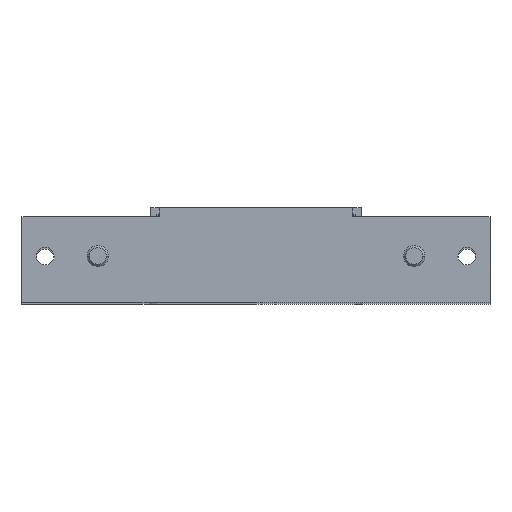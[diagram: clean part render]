
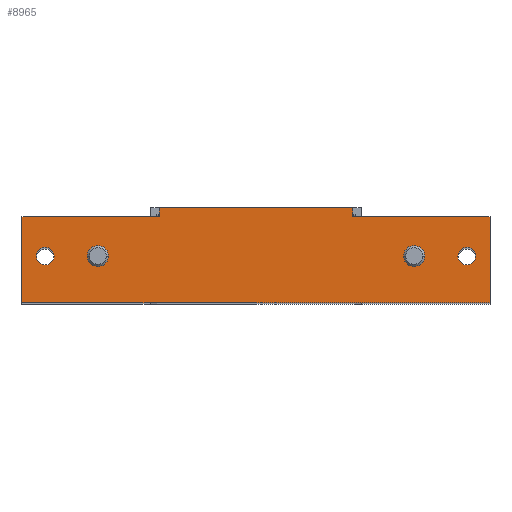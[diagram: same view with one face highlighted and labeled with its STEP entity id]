
A CAD part, top view. The second image highlights one B-rep face of the part: STEP entity #8965.
In plain terms, the highlighted planar face has unit normal (0, 0, 1).
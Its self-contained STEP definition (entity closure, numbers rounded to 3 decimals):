
#898 = VERTEX_POINT('',#899);
#899 = CARTESIAN_POINT('',(-47.9,-11.5,123.5));
#905 = EDGE_CURVE('',#906,#898,#908,.T.);
#906 = VERTEX_POINT('',#907);
#907 = CARTESIAN_POINT('',(-52.1,-11.5,123.5));
#908 = CIRCLE('',#909,2.1);
#909 = AXIS2_PLACEMENT_3D('',#910,#911,#912);
#910 = CARTESIAN_POINT('',(-50.,-11.5,123.5));
#911 = DIRECTION('',(0.,0.,1.));
#912 = DIRECTION('',(1.,0.,-0.));
#940 = VERTEX_POINT('',#941);
#941 = CARTESIAN_POINT('',(39.6,-11.5,123.5));
#947 = EDGE_CURVE('',#948,#940,#950,.T.);
#948 = VERTEX_POINT('',#949);
#949 = CARTESIAN_POINT('',(35.4,-11.5,123.5));
#950 = CIRCLE('',#951,2.1);
#951 = AXIS2_PLACEMENT_3D('',#952,#953,#954);
#952 = CARTESIAN_POINT('',(37.5,-11.5,123.5));
#953 = DIRECTION('',(0.,0.,1.));
#954 = DIRECTION('',(-1.,0.,0.));
#982 = VERTEX_POINT('',#983);
#983 = CARTESIAN_POINT('',(52.1,-11.5,123.5));
#989 = EDGE_CURVE('',#990,#982,#992,.T.);
#990 = VERTEX_POINT('',#991);
#991 = CARTESIAN_POINT('',(47.9,-11.5,123.5));
#992 = CIRCLE('',#993,2.1);
#993 = AXIS2_PLACEMENT_3D('',#994,#995,#996);
#994 = CARTESIAN_POINT('',(50.,-11.5,123.5));
#995 = DIRECTION('',(0.,0.,1.));
#996 = DIRECTION('',(-1.,0.,0.));
#1024 = VERTEX_POINT('',#1025);
#1025 = CARTESIAN_POINT('',(-35.4,-11.5,123.5));
#1031 = EDGE_CURVE('',#1032,#1024,#1034,.T.);
#1032 = VERTEX_POINT('',#1033);
#1033 = CARTESIAN_POINT('',(-39.6,-11.5,123.5));
#1034 = CIRCLE('',#1035,2.1);
#1035 = AXIS2_PLACEMENT_3D('',#1036,#1037,#1038);
#1036 = CARTESIAN_POINT('',(-37.5,-11.5,123.5));
#1037 = DIRECTION('',(0.,0.,1.));
#1038 = DIRECTION('',(1.,0.,-0.));
#3635 = VERTEX_POINT('',#3636);
#3636 = CARTESIAN_POINT('',(-22.9,0.,123.5));
#3642 = EDGE_CURVE('',#3643,#3635,#3645,.T.);
#3643 = VERTEX_POINT('',#3644);
#3644 = CARTESIAN_POINT('',(22.9,0.,123.5));
#3645 = LINE('',#3646,#3647);
#3646 = CARTESIAN_POINT('',(-25.,0.,123.5));
#3647 = VECTOR('',#3648,1.);
#3648 = DIRECTION('',(-1.,0.,0.));
#8906 = VERTEX_POINT('',#8907);
#8907 = CARTESIAN_POINT('',(22.9,-2.1,123.5));
#8922 = EDGE_CURVE('',#8906,#3643,#8923,.T.);
#8923 = LINE('',#8924,#8925);
#8924 = CARTESIAN_POINT('',(22.9,-2.1,123.5));
#8925 = VECTOR('',#8926,1.);
#8926 = DIRECTION('',(-0.,1.,0.));
#8946 = VERTEX_POINT('',#8947);
#8947 = CARTESIAN_POINT('',(-22.9,-2.1,123.5));
#8953 = EDGE_CURVE('',#8946,#3635,#8954,.T.);
#8954 = LINE('',#8955,#8956);
#8955 = CARTESIAN_POINT('',(-22.9,0.,123.5));
#8956 = VECTOR('',#8957,1.);
#8957 = DIRECTION('',(0.,1.,0.));
#8965 = ADVANCED_FACE('',(#8966,#8976,#8986,#8996,#9006),#9049,.T.);
#8966 = FACE_BOUND('',#8967,.T.);
#8967 = EDGE_LOOP('',(#8968,#8975));
#8968 = ORIENTED_EDGE('',*,*,#8969,.F.);
#8969 = EDGE_CURVE('',#898,#906,#8970,.T.);
#8970 = CIRCLE('',#8971,2.1);
#8971 = AXIS2_PLACEMENT_3D('',#8972,#8973,#8974);
#8972 = CARTESIAN_POINT('',(-50.,-11.5,123.5));
#8973 = DIRECTION('',(0.,0.,1.));
#8974 = DIRECTION('',(1.,0.,-0.));
#8975 = ORIENTED_EDGE('',*,*,#905,.F.);
#8976 = FACE_BOUND('',#8977,.T.);
#8977 = EDGE_LOOP('',(#8978,#8985));
#8978 = ORIENTED_EDGE('',*,*,#8979,.F.);
#8979 = EDGE_CURVE('',#940,#948,#8980,.T.);
#8980 = CIRCLE('',#8981,2.1);
#8981 = AXIS2_PLACEMENT_3D('',#8982,#8983,#8984);
#8982 = CARTESIAN_POINT('',(37.5,-11.5,123.5));
#8983 = DIRECTION('',(0.,0.,1.));
#8984 = DIRECTION('',(-1.,0.,0.));
#8985 = ORIENTED_EDGE('',*,*,#947,.F.);
#8986 = FACE_BOUND('',#8987,.T.);
#8987 = EDGE_LOOP('',(#8988,#8995));
#8988 = ORIENTED_EDGE('',*,*,#8989,.F.);
#8989 = EDGE_CURVE('',#982,#990,#8990,.T.);
#8990 = CIRCLE('',#8991,2.1);
#8991 = AXIS2_PLACEMENT_3D('',#8992,#8993,#8994);
#8992 = CARTESIAN_POINT('',(50.,-11.5,123.5));
#8993 = DIRECTION('',(0.,0.,1.));
#8994 = DIRECTION('',(-1.,0.,0.));
#8995 = ORIENTED_EDGE('',*,*,#989,.F.);
#8996 = FACE_BOUND('',#8997,.T.);
#8997 = EDGE_LOOP('',(#8998,#9005));
#8998 = ORIENTED_EDGE('',*,*,#8999,.F.);
#8999 = EDGE_CURVE('',#1024,#1032,#9000,.T.);
#9000 = CIRCLE('',#9001,2.1);
#9001 = AXIS2_PLACEMENT_3D('',#9002,#9003,#9004);
#9002 = CARTESIAN_POINT('',(-37.5,-11.5,123.5));
#9003 = DIRECTION('',(0.,0.,1.));
#9004 = DIRECTION('',(1.,0.,-0.));
#9005 = ORIENTED_EDGE('',*,*,#1031,.F.);
#9006 = FACE_BOUND('',#9007,.T.);
#9007 = EDGE_LOOP('',(#9008,#9018,#9026,#9032,#9033,#9034,#9035,#9043));
#9008 = ORIENTED_EDGE('',*,*,#9009,.F.);
#9009 = EDGE_CURVE('',#9010,#9012,#9014,.T.);
#9010 = VERTEX_POINT('',#9011);
#9011 = CARTESIAN_POINT('',(55.5,-22.5,123.5));
#9012 = VERTEX_POINT('',#9013);
#9013 = CARTESIAN_POINT('',(-55.5,-22.5,123.5));
#9014 = LINE('',#9015,#9016);
#9015 = CARTESIAN_POINT('',(-22.9,-22.5,123.5));
#9016 = VECTOR('',#9017,1.);
#9017 = DIRECTION('',(-1.,0.,-0.));
#9018 = ORIENTED_EDGE('',*,*,#9019,.F.);
#9019 = EDGE_CURVE('',#9020,#9010,#9022,.T.);
#9020 = VERTEX_POINT('',#9021);
#9021 = CARTESIAN_POINT('',(55.5,-2.1,123.5));
#9022 = LINE('',#9023,#9024);
#9023 = CARTESIAN_POINT('',(55.5,-19.5,123.5));
#9024 = VECTOR('',#9025,1.);
#9025 = DIRECTION('',(0.,-1.,0.));
#9026 = ORIENTED_EDGE('',*,*,#9027,.F.);
#9027 = EDGE_CURVE('',#8906,#9020,#9028,.T.);
#9028 = LINE('',#9029,#9030);
#9029 = CARTESIAN_POINT('',(22.9,-2.1,123.5));
#9030 = VECTOR('',#9031,1.);
#9031 = DIRECTION('',(1.,0.,0.));
#9032 = ORIENTED_EDGE('',*,*,#8922,.T.);
#9033 = ORIENTED_EDGE('',*,*,#3642,.T.);
#9034 = ORIENTED_EDGE('',*,*,#8953,.F.);
#9035 = ORIENTED_EDGE('',*,*,#9036,.T.);
#9036 = EDGE_CURVE('',#8946,#9037,#9039,.T.);
#9037 = VERTEX_POINT('',#9038);
#9038 = CARTESIAN_POINT('',(-55.5,-2.1,123.5));
#9039 = LINE('',#9040,#9041);
#9040 = CARTESIAN_POINT('',(-22.9,-2.1,123.5));
#9041 = VECTOR('',#9042,1.);
#9042 = DIRECTION('',(-1.,0.,0.));
#9043 = ORIENTED_EDGE('',*,*,#9044,.T.);
#9044 = EDGE_CURVE('',#9037,#9012,#9045,.T.);
#9045 = LINE('',#9046,#9047);
#9046 = CARTESIAN_POINT('',(-55.5,-19.5,123.5));
#9047 = VECTOR('',#9048,1.);
#9048 = DIRECTION('',(0.,-1.,-0.));
#9049 = PLANE('',#9050);
#9050 = AXIS2_PLACEMENT_3D('',#9051,#9052,#9053);
#9051 = CARTESIAN_POINT('',(0.,0.,123.5
    ));
#9052 = DIRECTION('',(0.,0.,1.));
#9053 = DIRECTION('',(0.,-1.,0.));
